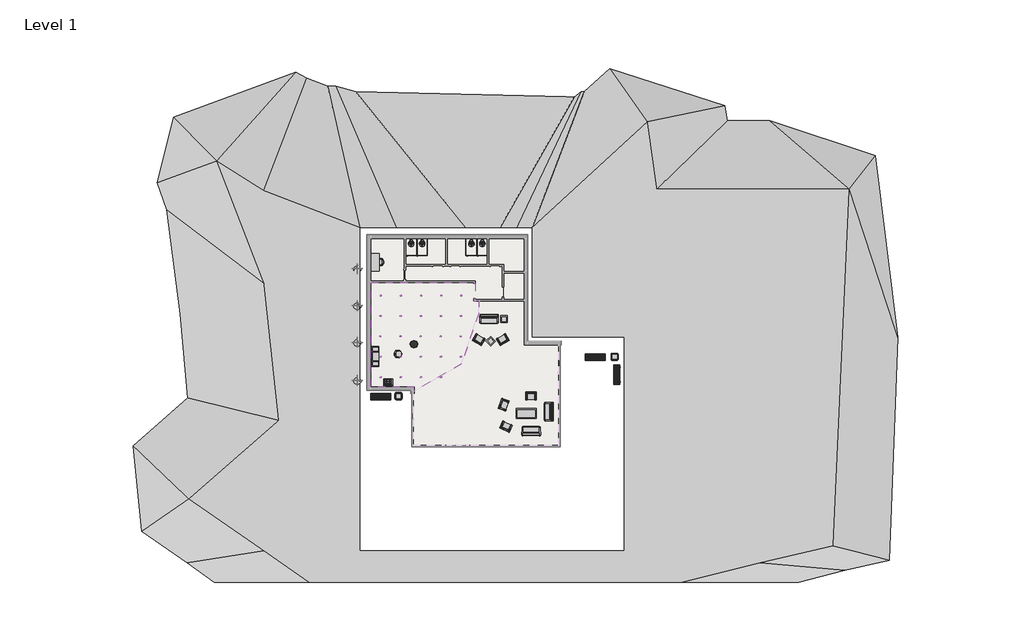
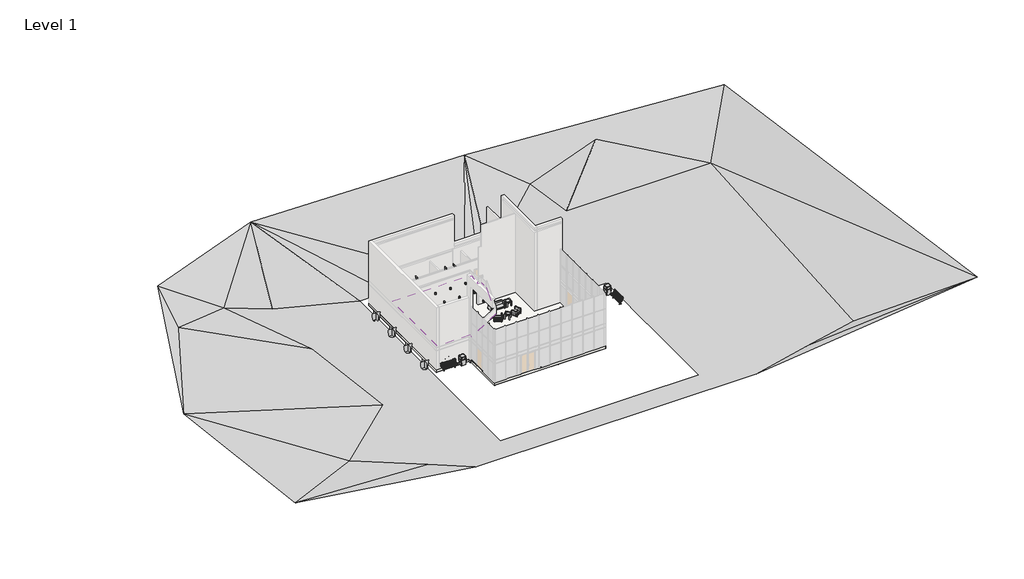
# One storey, part 6 of 6: 24 light fixtures, 16 furniture elements, 9 geographic elements, 4 flow terminals, 4 proxies, 2 slabs, 1 column, 1 covering.
"""IFC4 building model written with IfcOpenShell, lengths in millimetres."""

from ifc_helpers import new_model, si_unit, point, frame, frame_2d, origin, place, context, project, spatial, polyline, circle_curve, trimmed, segment, composite_curve, outline, extrude, triangles, transform, mapped, element, save
from components import toilet_partition_left_panel_86e2c154, toilet_partition_right_panel_75b5ee8c, m_metal_clad_column_610mm_diameter_6b82dced, m_toilet_commercial_wall_3d_380mm_seat_height_891fc42f, contemporary_seating_aus_armchair_88942494, contemporary_seating_aus_armchair_13fb45e9, m_chair_corbu_m_chair_corbu_62085674, m_chair_corbu_m_chair_corbu_af930865, m_chair_executive_m_chair_executive_8d69e98c, m_desk_1525_x_762mm_8f660baf, m_entertainment_center_1830_x_1830_x_0610mm_f77a9b93, m_sofa_pensi_1650mm_31461fb8, m_table_coffee_0610_x_0610_x_0610mm_65ce43c2, m_table_coffee_0915_x_1830_x_0457mm_134cd960, m_park_bench_1800mm_affd9039, m_trash_can_m_trash_can_952d1acd, rpc_shrub_boxwood_31a8b93a, m_downlight_recessed_can_152mm_incandescent_120v_9e946963

model = new_model("IFC4")

# Units and contexts
model_context = context("Model", 3, world=origin())
ifc_project = project(units=[si_unit("LENGTHUNIT", "METRE", prefix="MILLI")], contexts=[model_context])

# Site, building, storey
site = spatial("IfcSite", under=ifc_project)
building = spatial("IfcBuilding", under=site)
storey = spatial("IfcBuildingStorey", under=building, Name="Level 1", Elevation=45720.0)

# Proxies
placement = place(None, origin())
element("IfcBuildingElementProxy", 1, Name="Building Element Proxy", at=placement, inside=storey, context=model_context, shape_type="Tessellation", body=[
    triangles([(-41428.1642944, -20498.1557922, 48768.0), (-19551.4159058, -20498.1557922, 45720.0), (14417.4734619, -20498.1557922, 45720.0), (41237.1573486, -20498.1557922, 48768.0), (35819.3880432, 23255.3409851, 48768.0), (6851.5562073, 27630.6901978, 47244.0), (-18646.1711609, 28234.1859192, 47244.0), (-32979.2148926, 22953.5919617, 47244.0), (-43389.5282959, -582.771405, 48768.0), (-14938.2288849, -17638.8082306, 45732.6782959), (-14938.2288849, -17593.1110199, 45732.7015503), (-14938.2288849, -13234.14104, 45732.7015503), (-14938.2288849, -10756.0423004, 45744.6124512), (-14938.2288849, -3075.3747826, 45769.6388306), (-14938.2288849, -1483.2915836, 45774.8292114), (-14938.2288849, 2511.0714363, 45785.5262329), (-14938.2288849, 5032.5556091, 45788.5772095), (-14938.2288849, 11773.3104401, 45772.9549072), (-11600.6105164, 11773.3104401, 45770.8015503), (-5282.8159149, 11773.3104401, 45949.5301758), (-2147.8218063, 11773.3104401, 45955.4833008), (-634.5518927, 11773.3104401, 45775.6570679), (758.9712605, 11773.3104401, 45773.6106812), (758.9712605, 11061.46203, 45770.8015503), (758.9712605, 8665.1617859, 45754.8955444), (758.9712605, 5052.8747177, 45774.6059692), (758.9712605, 2919.9441536, 45780.5125854), (758.9712605, 1803.1890633, 45779.0754639), (3604.4020844, 1803.1890633, 45768.2528687), (9140.9711151, 1803.1890633, 45738.3849243), (9140.9711151, 1450.7640633, 45739.3616089), (9140.9711151, -369.7655477, 45744.4031616), (9140.9711151, -6338.6264694, 45736.7292114), (9140.9711151, -7307.9707901, 45732.7015503), (9140.9711151, -8053.5514435, 45732.7015503), (9140.9711151, -14295.842514, 45732.7015503), (9140.9711151, -17638.8082306, 45727.6692993), (1262.9813393, -17638.8082306, 45732.7015503), (-14928.8248077, -17638.8082306, 45732.7015503), (9968.4368866, 6832.0393753, 45720.0), (29567.6417358, 15272.2119873, 45796.2), (-23646.2380554, 6725.5726181, 45760.6393799), (-23646.2380554, 15127.1917694, 45770.8015503), (-27925.6977722, 17821.6645111, 45796.2), (11223.416098, 21387.8805542, 45796.2), (12079.5812805, 15272.2119873, 45770.8015503), (18355.8458588, 2130.3199677, 45745.3984497), (11857.4099579, -1435.8949127, 45732.7015503), (-22299.0016846, -5794.6015366, 45732.7015503), (-15800.5669464, -13402.5261108, 45732.7015503), (11619.6628418, -13244.0276459, 45732.7015503), (9955.429541, -7062.5892563, 45732.7015503), (21446.5653442, -18758.8352142, 45732.7015503), (28103.5008728, -17206.48927, 45732.7015503), (-30461.6708862, -12927.0318787, 45732.7015503), (-23646.2380554, -17638.8082306, 45732.7015503), (-34897.5373352, 15272.2119873, 47244.0), (20279.3528687, 23255.3409851, 47244.0)], [[1, 2, 56], [56, 2, 50], [1, 56, 55], [9, 55, 49], [55, 9, 1], [49, 50, 13], [49, 55, 56], [56, 50, 49], [42, 9, 49], [2, 11, 50], [39, 10, 2], [10, 11, 2], [12, 13, 50], [14, 15, 49], [13, 14, 49], [11, 12, 50], [2, 38, 39], [16, 49, 15], [43, 42, 18], [42, 43, 44], [18, 42, 17], [43, 18, 7], [57, 8, 9], [8, 57, 44], [44, 7, 8], [7, 44, 43], [57, 42, 44], [18, 19, 7], [42, 57, 9], [16, 17, 42], [26, 27, 29], [7, 20, 6], [20, 21, 6], [7, 19, 20], [42, 49, 16], [6, 21, 22], [37, 38, 3], [51, 35, 36], [48, 32, 33], [52, 33, 34], [35, 52, 34], [36, 37, 51], [3, 4, 53], [53, 4, 54], [3, 53, 51], [48, 52, 47], [51, 52, 35], [54, 47, 53], [51, 47, 52], [47, 51, 53], [52, 48, 33], [54, 4, 41], [3, 51, 37], [38, 2, 3], [32, 48, 31], [29, 40, 26], [25, 26, 40], [24, 25, 40], [23, 6, 22], [40, 23, 24], [45, 6, 23], [29, 30, 40], [29, 27, 28], [46, 23, 40], [30, 47, 40], [46, 47, 41], [47, 46, 40], [48, 47, 30], [46, 45, 23], [45, 58, 6], [45, 46, 58], [41, 5, 58], [5, 41, 4], [46, 41, 58], [58, 5, 6], [47, 54, 41], [31, 48, 30]], closed=False),
])
element("IfcBuildingElementProxy", 2, Name="Building Element Proxy", at=placement, inside=storey, context=model_context, shape_type="Tessellation", body=[
    triangles([(-14264.2316528, -3075.3747826, 45415.0418701), (-14264.2316528, -3075.3747826, 45772.2107666), (-12435.5397858, -3075.3747826, 45415.0418701), (-12435.5397858, -3075.3747826, 45779.187085), (-10301.8316528, -3075.3747826, 45415.0418701), (-10301.8316528, -3075.3747826, 45777.1825562), (-10301.8316528, -3321.4373795, 45415.0418701), (-10301.8316528, -3321.4373795, 45776.0012329), (-10189.1187653, -3321.4373795, 45415.0418701), (-10189.1187653, -3321.4373795, 45775.8942627), (-10189.1187653, -8172.8371857, 45415.0418701), (-10189.1187653, -8172.8371857, 45752.5747559), (-4408.8669342, -8172.8371857, 45415.0418701), (-4408.8669342, -8172.8371857, 45747.1471802), (-2489.5785622, -8172.8371857, 45415.0418701), (-2489.5785622, -8172.8371857, 45743.6683228), (3301.4563316, -8172.8371857, 45415.0418701), (3301.4563316, -8172.8371857, 45736.4176025), (3301.4563316, -1147.9467184, 45415.0418701), (3301.4563316, -1147.9467184, 45765.6111694), (3301.4563316, 1100.7639879, 45415.0418701), (3301.4563316, 1100.7639879, 45768.5040161), (3414.1686378, 1100.7639879, 45415.0418701), (3414.1686378, 1100.7639879, 45768.0714844), (3414.1686378, 1450.7640633, 45415.0418701), (3414.1686378, 1450.7640633, 45768.5226196)], [[1, 4, 2], [1, 3, 4], [3, 6, 4], [3, 5, 6], [5, 8, 6], [5, 7, 8], [7, 10, 8], [7, 9, 10], [9, 12, 10], [9, 11, 12], [11, 14, 12], [11, 13, 14], [13, 16, 14], [13, 15, 16], [15, 18, 16], [15, 17, 18], [17, 20, 18], [17, 19, 20], [19, 22, 20], [19, 21, 22], [21, 24, 22], [21, 23, 24], [23, 26, 24], [23, 25, 26]], closed=False),
    triangles([(377.9066568, 1450.7640633, 45415.0418701), (377.9066568, 1450.7640633, 45780.070752), (366.1687105, 1450.7640633, 45415.0418701), (366.1687105, 1450.7640633, 45780.0847046), (366.1687105, 1461.1977287, 45415.0418701), (366.1687105, 1461.1977287, 45780.1312134), (366.1687105, 3074.1085808, 45415.0418701), (366.1687105, 3074.1085808, 45782.2008545), (366.1687105, 4976.9898148, 45415.0418701), (366.1687105, 4976.9898148, 45776.9360596), (366.1687105, 8743.3482925, 45415.0418701), (366.1687105, 8743.3482925, 45756.3838257), (366.1687105, 10915.3581573, 45415.0418701), (366.1687105, 10915.3581573, 45770.8015503), (366.1687105, 11107.3499268, 45415.0418701), (366.1687105, 11107.3499268, 45771.5596436), (-1455.9032845, 11107.3499268, 45415.0418701), (-1455.9032845, 11107.3499268, 45774.2338989), (-2525.7676323, 11107.3499268, 45415.0418701), (-2525.7676323, 11107.3499268, 45901.3656738), (-4742.1724617, 11107.3499268, 45415.0418701), (-4742.1724617, 11107.3499268, 45897.1612793), (-9208.7803482, 11107.3499268, 45415.0418701), (-9208.7803482, 11107.3499268, 45770.8015503), (-14264.2316528, 11107.3499268, 45415.0418701), (-14264.2316528, 11107.3499268, 45774.0618164)], [[1, 4, 2], [1, 3, 4], [3, 6, 4], [3, 5, 6], [5, 8, 6], [5, 7, 8], [7, 10, 8], [7, 9, 10], [9, 12, 10], [9, 11, 12], [11, 14, 12], [11, 13, 14], [13, 16, 14], [13, 15, 16], [15, 18, 16], [15, 17, 18], [17, 20, 18], [17, 19, 20], [19, 22, 20], [19, 21, 22], [21, 24, 22], [21, 23, 24], [23, 26, 24], [23, 25, 26]], closed=False),
    triangles([(-14264.2316528, 11107.3499268, 45415.0418701), (-14264.2316528, 11107.3499268, 45774.0618164), (-14264.2316528, 4251.2335327, 45415.0418701), (-14264.2316528, 4251.2335327, 45789.9538696), (-14264.2316528, 2184.8701263, 45415.0418701), (-14264.2316528, 2184.8701263, 45787.4563477), (-14264.2316528, -1088.5216393, 45415.0418701), (-14264.2316528, -1088.5216393, 45778.68479), (-14264.2316528, -3075.3747826, 45415.0418701), (-14264.2316528, -3075.3747826, 45772.2107666)], [[1, 4, 2], [1, 3, 4], [3, 6, 4], [3, 5, 6], [5, 8, 6], [5, 7, 8], [7, 10, 8], [7, 9, 10]], closed=False),
    triangles([(-14264.2316528, 11107.3499268, 45415.0418701), (-14264.2316528, -3075.3747826, 45415.0418701), (-10301.8316528, -3075.3747826, 45415.0418701), (-10301.8316528, -3321.4373795, 45415.0418701), (-10189.1187653, -3321.4373795, 45415.0418701), (-10189.1187653, -8172.8371857, 45415.0418701), (3301.4563316, -8172.8371857, 45415.0418701), (3301.4563316, 1100.7639879, 45415.0418701), (3414.1686378, 1100.7639879, 45415.0418701), (3414.1686378, 1450.7640633, 45415.0418701), (366.1687105, 1450.7640633, 45415.0418701), (366.1687105, 11107.3499268, 45415.0418701)], [[5, 6, 7], [4, 5, 3], [1, 2, 3], [11, 1, 3], [3, 5, 11], [7, 8, 11], [8, 9, 10], [10, 11, 8], [11, 12, 1], [7, 11, 5]], closed=False),
])
toilet_partition_left_panel_shape = toilet_partition_left_panel_86e2c154(model_context)
element("IfcBuildingElementProxy", 3, Name="Toilet Partition : Left Panel", ObjectType="Toilet Partition : Left Panel", at=placement, inside=storey, context=model_context, shape_type="MappedRepresentation", body=[
    mapped(toilet_partition_left_panel_shape, transform((-4228.0563072, 9199.1751138, 45720.0), x_axis=(1.0, 0.0, 0.0), y_axis=(0.0, 1.0, 0.0), z_axis=(0.0, 0.0, 1.0))),
])
toilet_partition_right_panel_shape = toilet_partition_right_panel_75b5ee8c(model_context)
element("IfcBuildingElementProxy", 4, Name="Toilet Partition : Right Panel", ObjectType="Toilet Partition : Right Panel", at=placement, inside=storey, context=model_context, shape_type="MappedRepresentation", body=[
    mapped(toilet_partition_right_panel_shape, transform((-9689.0560279, 9199.1751138, 45720.0), x_axis=(1.0, 0.0, 0.0), y_axis=(0.0, 1.0, 0.0), z_axis=(0.0, 0.0, 1.0))),
])

# Column
m_metal_clad_column_610mm_diameter_shape = m_metal_clad_column_610mm_diameter_6b82dced(model_context)
element("IfcColumn", 5, ObjectType="M_Metal Clad Column : 610mm Diameter", at=placement, inside=storey, context=model_context, shape_type="MappedRepresentation", body=[
    mapped(m_metal_clad_column_610mm_diameter_shape, transform((-9997.0313072, 1149.0992317, 0.0), x_axis=(1.0, 0.0, 0.0), y_axis=(0.0, 1.0, 0.0), z_axis=(0.0, 0.0, 1.0))),
])

# Covering
element("IfcCovering", 6, ObjectType="Plain", at=placement, inside=storey, context=model_context, shape_type="SweptSolid", body=[
    extrude(outline(composite_curve([segment(polyline([(-13914.2313072, 6754.4001138), (-4531.8153553, 6754.4001138), (-4531.8153553, 6665.5251138), (-4404.7653553, 6665.5251138), (-4404.7653553, 5293.9251138), (-4531.8153553, 5293.9251138), (-4531.8153553, 5078.0001138), (-4111.4066434, 5078.0001138), (-4111.4066434, 3987.7203366)]), True, "CONTINUOUS"), segment(trimmed(circle_curve(frame_2d((-10970.1665049, 3705.9461435)), 6864.545399), [point((-4111.4066434, 3987.7203366))], [point((-9951.8313072, -3082.6455337))], False, "CARTESIAN"), True, "CONTINUOUS"), segment(polyline([(-9951.8313072, -3082.6455337), (-9951.8313072, -2725.3748862), (-13914.2313072, -2725.3748862), (-13914.2313072, 6635.1698262), (-13914.2313072, 6754.4001138)]), True, "CONTINUOUS")], self_intersect=False), holes=[composite_curve([segment(trimmed(circle_curve(frame_2d((-5706.0188072, 3714.1698262)), 75.0), [point((-5781.0188072, 3714.1698262))], [point((-5631.0188072, 3714.1698262))], True, "CARTESIAN"), True, "CONTINUOUS"), segment(trimmed(circle_curve(frame_2d((-5706.0188072, 3714.1698262)), 75.0), [point((-5631.0188072, 3714.1698262))], [point((-5781.0188072, 3714.1698262))], True, "CARTESIAN"), True, "CONTINUOUS")], self_intersect=False), composite_curve([segment(trimmed(circle_curve(frame_2d((-5706.0188072, 5573.3251138)), 75.0), [point((-5781.0188072, 5573.3251138))], [point((-5631.0188072, 5573.3251138))], True, "CARTESIAN"), True, "CONTINUOUS"), segment(trimmed(circle_curve(frame_2d((-5706.0188072, 5573.3251138)), 75.0), [point((-5631.0188072, 5573.3251138))], [point((-5781.0188072, 5573.3251138))], True, "CARTESIAN"), True, "CONTINUOUS")], self_intersect=False), composite_curve([segment(trimmed(circle_curve(frame_2d((-7534.8188072, 3714.1698262)), 75.0), [point((-7609.8188072, 3714.1698262))], [point((-7459.8188072, 3714.1698262))], True, "CARTESIAN"), True, "CONTINUOUS"), segment(trimmed(circle_curve(frame_2d((-7534.8188072, 3714.1698262)), 75.0), [point((-7459.8188072, 3714.1698262))], [point((-7609.8188072, 3714.1698262))], True, "CARTESIAN"), True, "CONTINUOUS")], self_intersect=False), composite_curve([segment(trimmed(circle_curve(frame_2d((-7534.8188072, 5573.3251138)), 75.0), [point((-7609.8188072, 5573.3251138))], [point((-7459.8188072, 5573.3251138))], True, "CARTESIAN"), True, "CONTINUOUS"), segment(trimmed(circle_curve(frame_2d((-7534.8188072, 5573.3251138)), 75.0), [point((-7459.8188072, 5573.3251138))], [point((-7609.8188072, 5573.3251138))], True, "CARTESIAN"), True, "CONTINUOUS")], self_intersect=False), composite_curve([segment(trimmed(circle_curve(frame_2d((-9363.6188072, 3714.1698262)), 75.0), [point((-9438.6188072, 3714.1698262))], [point((-9288.6188072, 3714.1698262))], True, "CARTESIAN"), True, "CONTINUOUS"), segment(trimmed(circle_curve(frame_2d((-9363.6188072, 3714.1698262)), 75.0), [point((-9288.6188072, 3714.1698262))], [point((-9438.6188072, 3714.1698262))], True, "CARTESIAN"), True, "CONTINUOUS")], self_intersect=False), composite_curve([segment(trimmed(circle_curve(frame_2d((-9363.6188072, 5573.3251138)), 75.0), [point((-9438.6188072, 5573.3251138))], [point((-9288.6188072, 5573.3251138))], True, "CARTESIAN"), True, "CONTINUOUS"), segment(trimmed(circle_curve(frame_2d((-9363.6188072, 5573.3251138)), 75.0), [point((-9288.6188072, 5573.3251138))], [point((-9438.6188072, 5573.3251138))], True, "CARTESIAN"), True, "CONTINUOUS")], self_intersect=False), composite_curve([segment(trimmed(circle_curve(frame_2d((-11192.4188072, 3714.1698262)), 75.0), [point((-11267.4188072, 3714.1698262))], [point((-11117.4188072, 3714.1698262))], True, "CARTESIAN"), True, "CONTINUOUS"), segment(trimmed(circle_curve(frame_2d((-11192.4188072, 3714.1698262)), 75.0), [point((-11117.4188072, 3714.1698262))], [point((-11267.4188072, 3714.1698262))], True, "CARTESIAN"), True, "CONTINUOUS")], self_intersect=False), composite_curve([segment(trimmed(circle_curve(frame_2d((-11192.4188072, 5573.3251138)), 75.0), [point((-11267.4188072, 5573.3251138))], [point((-11117.4188072, 5573.3251138))], True, "CARTESIAN"), True, "CONTINUOUS"), segment(trimmed(circle_curve(frame_2d((-11192.4188072, 5573.3251138)), 75.0), [point((-11117.4188072, 5573.3251138))], [point((-11267.4188072, 5573.3251138))], True, "CARTESIAN"), True, "CONTINUOUS")], self_intersect=False), composite_curve([segment(trimmed(circle_curve(frame_2d((-13021.2188072, 3714.1698262)), 75.0), [point((-13096.2188072, 3714.1698262))], [point((-12946.2188072, 3714.1698262))], True, "CARTESIAN"), True, "CONTINUOUS"), segment(trimmed(circle_curve(frame_2d((-13021.2188072, 3714.1698262)), 75.0), [point((-12946.2188072, 3714.1698262))], [point((-13096.2188072, 3714.1698262))], True, "CARTESIAN"), True, "CONTINUOUS")], self_intersect=False), composite_curve([segment(trimmed(circle_curve(frame_2d((-13021.2188072, 5573.3251138)), 75.0), [point((-13096.2188072, 5573.3251138))], [point((-12946.2188072, 5573.3251138))], True, "CARTESIAN"), True, "CONTINUOUS"), segment(trimmed(circle_curve(frame_2d((-13021.2188072, 5573.3251138)), 75.0), [point((-12946.2188072, 5573.3251138))], [point((-13096.2188072, 5573.3251138))], True, "CARTESIAN"), True, "CONTINUOUS")], self_intersect=False), composite_curve([segment(trimmed(circle_curve(frame_2d((-5706.0188072, 1859.9698262)), 75.0), [point((-5781.0188072, 1859.9698262))], [point((-5631.0188072, 1859.9698262))], True, "CARTESIAN"), True, "CONTINUOUS"), segment(trimmed(circle_curve(frame_2d((-5706.0188072, 1859.9698262)), 75.0), [point((-5631.0188072, 1859.9698262))], [point((-5781.0188072, 1859.9698262))], True, "CARTESIAN"), True, "CONTINUOUS")], self_intersect=False), composite_curve([segment(trimmed(circle_curve(frame_2d((-7534.8188072, 1859.9698262)), 75.0), [point((-7609.8188072, 1859.9698262))], [point((-7459.8188072, 1859.9698262))], True, "CARTESIAN"), True, "CONTINUOUS"), segment(trimmed(circle_curve(frame_2d((-7534.8188072, 1859.9698262)), 75.0), [point((-7459.8188072, 1859.9698262))], [point((-7609.8188072, 1859.9698262))], True, "CARTESIAN"), True, "CONTINUOUS")], self_intersect=False), composite_curve([segment(trimmed(circle_curve(frame_2d((-9363.6188072, 1859.9698262)), 75.0), [point((-9438.6188072, 1859.9698262))], [point((-9288.6188072, 1859.9698262))], True, "CARTESIAN"), True, "CONTINUOUS"), segment(trimmed(circle_curve(frame_2d((-9363.6188072, 1859.9698262)), 75.0), [point((-9288.6188072, 1859.9698262))], [point((-9438.6188072, 1859.9698262))], True, "CARTESIAN"), True, "CONTINUOUS")], self_intersect=False), composite_curve([segment(trimmed(circle_curve(frame_2d((-11192.4188072, 1859.9698262)), 75.0), [point((-11267.4188072, 1859.9698262))], [point((-11117.4188072, 1859.9698262))], True, "CARTESIAN"), True, "CONTINUOUS"), segment(trimmed(circle_curve(frame_2d((-11192.4188072, 1859.9698262)), 75.0), [point((-11117.4188072, 1859.9698262))], [point((-11267.4188072, 1859.9698262))], True, "CARTESIAN"), True, "CONTINUOUS")], self_intersect=False), composite_curve([segment(trimmed(circle_curve(frame_2d((-13021.2188072, 1859.9698262)), 75.0), [point((-13096.2188072, 1859.9698262))], [point((-12946.2188072, 1859.9698262))], True, "CARTESIAN"), True, "CONTINUOUS"), segment(trimmed(circle_curve(frame_2d((-13021.2188072, 1859.9698262)), 75.0), [point((-12946.2188072, 1859.9698262))], [point((-13096.2188072, 1859.9698262))], True, "CARTESIAN"), True, "CONTINUOUS")], self_intersect=False), composite_curve([segment(trimmed(circle_curve(frame_2d((-7534.8188072, 5.7698262)), 75.0), [point((-7609.8188072, 5.7698262))], [point((-7459.8188072, 5.7698262))], True, "CARTESIAN"), True, "CONTINUOUS"), segment(trimmed(circle_curve(frame_2d((-7534.8188072, 5.7698262)), 75.0), [point((-7459.8188072, 5.7698262))], [point((-7609.8188072, 5.7698262))], True, "CARTESIAN"), True, "CONTINUOUS")], self_intersect=False), composite_curve([segment(trimmed(circle_curve(frame_2d((-9363.6188072, 5.7698262)), 75.0), [point((-9438.6188072, 5.7698262))], [point((-9288.6188072, 5.7698262))], True, "CARTESIAN"), True, "CONTINUOUS"), segment(trimmed(circle_curve(frame_2d((-9363.6188072, 5.7698262)), 75.0), [point((-9288.6188072, 5.7698262))], [point((-9438.6188072, 5.7698262))], True, "CARTESIAN"), True, "CONTINUOUS")], self_intersect=False), composite_curve([segment(trimmed(circle_curve(frame_2d((-11192.4188072, 5.7698262)), 75.0), [point((-11267.4188072, 5.7698262))], [point((-11117.4188072, 5.7698262))], True, "CARTESIAN"), True, "CONTINUOUS"), segment(trimmed(circle_curve(frame_2d((-11192.4188072, 5.7698262)), 75.0), [point((-11117.4188072, 5.7698262))], [point((-11267.4188072, 5.7698262))], True, "CARTESIAN"), True, "CONTINUOUS")], self_intersect=False), composite_curve([segment(trimmed(circle_curve(frame_2d((-13021.2188072, 5.7698262)), 75.0), [point((-13096.2188072, 5.7698262))], [point((-12946.2188072, 5.7698262))], True, "CARTESIAN"), True, "CONTINUOUS"), segment(trimmed(circle_curve(frame_2d((-13021.2188072, 5.7698262)), 75.0), [point((-12946.2188072, 5.7698262))], [point((-13096.2188072, 5.7698262))], True, "CARTESIAN"), True, "CONTINUOUS")], self_intersect=False), composite_curve([segment(trimmed(circle_curve(frame_2d((-7534.8188072, -1848.4301738)), 75.0), [point((-7609.8188072, -1848.4301738))], [point((-7459.8188072, -1848.4301738))], True, "CARTESIAN"), True, "CONTINUOUS"), segment(trimmed(circle_curve(frame_2d((-7534.8188072, -1848.4301738)), 75.0), [point((-7459.8188072, -1848.4301738))], [point((-7609.8188072, -1848.4301738))], True, "CARTESIAN"), True, "CONTINUOUS")], self_intersect=False), composite_curve([segment(trimmed(circle_curve(frame_2d((-9363.6188072, -1848.4301738)), 75.0), [point((-9438.6188072, -1848.4301738))], [point((-9288.6188072, -1848.4301738))], True, "CARTESIAN"), True, "CONTINUOUS"), segment(trimmed(circle_curve(frame_2d((-9363.6188072, -1848.4301738)), 75.0), [point((-9288.6188072, -1848.4301738))], [point((-9438.6188072, -1848.4301738))], True, "CARTESIAN"), True, "CONTINUOUS")], self_intersect=False), composite_curve([segment(trimmed(circle_curve(frame_2d((-11192.4188072, -1848.4301738)), 75.0), [point((-11267.4188072, -1848.4301738))], [point((-11117.4188072, -1848.4301738))], True, "CARTESIAN"), True, "CONTINUOUS"), segment(trimmed(circle_curve(frame_2d((-11192.4188072, -1848.4301738)), 75.0), [point((-11117.4188072, -1848.4301738))], [point((-11267.4188072, -1848.4301738))], True, "CARTESIAN"), True, "CONTINUOUS")], self_intersect=False), composite_curve([segment(trimmed(circle_curve(frame_2d((-13021.2188072, -1848.4301738)), 75.0), [point((-13096.2188072, -1848.4301738))], [point((-12946.2188072, -1848.4301738))], True, "CARTESIAN"), True, "CONTINUOUS"), segment(trimmed(circle_curve(frame_2d((-13021.2188072, -1848.4301738)), 75.0), [point((-12946.2188072, -1848.4301738))], [point((-13096.2188072, -1848.4301738))], True, "CARTESIAN"), True, "CONTINUOUS")], self_intersect=False), composite_curve([segment(trimmed(circle_curve(frame_2d((-5706.0188072, 5.7698262)), 75.0), [point((-5781.0188072, 5.7698262))], [point((-5631.0188072, 5.7698262))], True, "CARTESIAN"), True, "CONTINUOUS"), segment(trimmed(circle_curve(frame_2d((-5706.0188072, 5.7698262)), 75.0), [point((-5631.0188072, 5.7698262))], [point((-5781.0188072, 5.7698262))], True, "CARTESIAN"), True, "CONTINUOUS")], self_intersect=False)]), frame((0.0, 0.0, 48463.2), z_axis=(0.0, 0.0, 1.0), x_axis=(1.0, 0.0, 0.0)), (0.0, 0.0, 1.0), 57.0),
])

# Flow terminals
m_toilet_commercial_wall_3d_380mm_seat_height_shape = m_toilet_commercial_wall_3d_380mm_seat_height_891fc42f(model_context)
element("IfcFlowTerminal", 7, ObjectType="M_Toilet-Commercial-Wall-3D : 380mm Seat Height", at=placement, inside=storey, context=model_context, shape_type="MappedRepresentation", body=[
    mapped(m_toilet_commercial_wall_3d_380mm_seat_height_shape, transform((-4362.9031534, 10932.3501138, 45720.0), x_axis=(-1.0, 0.0, 0.0), y_axis=(0.0, -1.0, 0.0), z_axis=(0.0, 0.0, 1.0))),
])
element("IfcFlowTerminal", 8, ObjectType="M_Toilet-Commercial-Wall-3D : 380mm Seat Height", at=placement, inside=storey, context=model_context, shape_type="MappedRepresentation", body=[
    mapped(m_toilet_commercial_wall_3d_380mm_seat_height_shape, transform((-3365.9531534, 10932.3501138, 45720.0), x_axis=(-1.0, 0.0, 0.0), y_axis=(0.0, -1.0, 0.0), z_axis=(0.0, 0.0, 1.0))),
])
element("IfcFlowTerminal", 9, ObjectType="M_Toilet-Commercial-Wall-3D : 380mm Seat Height", at=placement, inside=storey, context=model_context, shape_type="MappedRepresentation", body=[
    mapped(m_toilet_commercial_wall_3d_380mm_seat_height_shape, transform((-9836.6028741, 10932.3501138, 45720.0), x_axis=(-1.0, 0.0, 0.0), y_axis=(0.0, -1.0, 0.0), z_axis=(0.0, 0.0, 1.0))),
])
element("IfcFlowTerminal", 10, ObjectType="M_Toilet-Commercial-Wall-3D : 380mm Seat Height", at=placement, inside=storey, context=model_context, shape_type="MappedRepresentation", body=[
    mapped(m_toilet_commercial_wall_3d_380mm_seat_height_shape, transform((-8839.6528741, 10932.3501138, 45720.0), x_axis=(-1.0, 0.0, 0.0), y_axis=(0.0, -1.0, 0.0), z_axis=(0.0, 0.0, 1.0))),
])

# Furniture
contemporary_seating_aus_armchair_shape = contemporary_seating_aus_armchair_88942494(model_context)
contemporary_seating_aus_armchair_2_shape = contemporary_seating_aus_armchair_13fb45e9(model_context)
element("IfcFurniture", 11, ObjectType="Contemporary Seating (AUS) : Armchair", at=placement, inside=storey, context=model_context, shape_type="MappedRepresentation", body=[
    mapped(contemporary_seating_aus_armchair_shape, transform((-12192.8501139, -2625.3748862, 45720.0), x_axis=(-1.0, 0.0, 0.0), y_axis=(0.0, -1.0, 0.0), z_axis=(0.0, 0.0, 1.0))),
    mapped(contemporary_seating_aus_armchair_2_shape, transform((-12192.8501139, -2625.3748862, 45720.0), x_axis=(-1.0, 0.0, 0.0), y_axis=(0.0, -1.0, 0.0), z_axis=(0.0, 0.0, 1.0))),
])
m_chair_corbu_m_chair_corbu_shape = m_chair_corbu_m_chair_corbu_62085674(model_context)
element("IfcFurniture", 12, ObjectType="M_Chair-Corbu : M_Chair-Corbu", at=placement, inside=storey, context=model_context, shape_type="MappedRepresentation", body=[
    mapped(m_chair_corbu_m_chair_corbu_shape, transform((-3364.9045663, 1687.1656632, 45720.0), x_axis=(-0.8660254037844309, 0.5000000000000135, 0.0), y_axis=(-0.5000000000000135, -0.8660254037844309, 0.0), z_axis=(0.0, 0.0, 1.0))),
])
element("IfcFurniture", 13, ObjectType="M_Chair-Corbu : M_Chair-Corbu", at=placement, inside=storey, context=model_context, shape_type="MappedRepresentation", body=[
    mapped(m_chair_corbu_m_chair_corbu_shape, transform((-1575.5129686, -5056.2676777, 45720.0), x_axis=(0.3255681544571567, 0.9455185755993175, 0.0), y_axis=(-0.9455185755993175, 0.3255681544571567, 0.0), z_axis=(0.0, 0.0, 1.0))),
])
element("IfcFurniture", 14, ObjectType="M_Chair-Corbu : M_Chair-Corbu", at=placement, inside=storey, context=model_context, shape_type="MappedRepresentation", body=[
    mapped(m_chair_corbu_m_chair_corbu_shape, transform((-900.9288538, -6150.1458279, 45720.0), x_axis=(-0.9135454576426, 0.40673664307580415, 0.0), y_axis=(-0.40673664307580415, -0.9135454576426, 0.0), z_axis=(0.0, 0.0, 1.0))),
])
element("IfcFurniture", 15, ObjectType="M_Chair-Corbu : M_Chair-Corbu", at=placement, inside=storey, context=model_context, shape_type="MappedRepresentation", body=[
    mapped(m_chair_corbu_m_chair_corbu_shape, transform((73.7824223, -4018.2255465, 45720.0), x_axis=(1.0, 0.0, 0.0), y_axis=(0.0, 1.0, 0.0), z_axis=(0.0, 0.0, 1.0))),
])
m_chair_corbu_m_chair_corbu_2_shape = m_chair_corbu_m_chair_corbu_af930865(model_context)
element("IfcFurniture", 16, ObjectType="M_Chair-Corbu : M_Chair-Corbu", at=placement, inside=storey, context=model_context, shape_type="MappedRepresentation", body=[
    mapped(m_chair_corbu_m_chair_corbu_2_shape, transform((-2645.916353, 1687.1656632, 45720.0), x_axis=(0.8660254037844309, 0.5000000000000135, 0.0), y_axis=(-0.5000000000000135, 0.8660254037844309, 0.0), z_axis=(0.0, 0.0, 1.0))),
])
m_chair_executive_m_chair_executive_shape = m_chair_executive_m_chair_executive_8d69e98c(model_context)
element("IfcFurniture", 17, ObjectType="M_Chair-Executive : M_Chair-Executive", at=placement, inside=storey, context=model_context, shape_type="MappedRepresentation", body=[
    mapped(m_chair_executive_m_chair_executive_shape, transform((-13092.7604056, 8480.3342941, 45720.0), x_axis=(0.0, 1.0, 0.0), y_axis=(-1.0, 0.0, 0.0), z_axis=(0.0, 0.0, 1.0))),
])
element("IfcFurniture", 18, ObjectType="M_Chair-Executive : M_Chair-Executive", at=placement, inside=storey, context=model_context, shape_type="MappedRepresentation", body=[
    mapped(m_chair_executive_m_chair_executive_shape, transform((-11433.1772089, 390.0900513, 45720.0), x_axis=(0.0, -1.0, 0.0), y_axis=(1.0, 0.0, 0.0), z_axis=(0.0, 0.0, 1.0))),
])
m_desk_1525_x_762mm_shape = m_desk_1525_x_762mm_8f660baf(model_context)
element("IfcFurniture", 19, ObjectType="M_Desk : 1525 x 762mm", at=placement, inside=storey, context=model_context, shape_type="MappedRepresentation", body=[
    mapped(m_desk_1525_x_762mm_shape, transform((-13911.8063072, 9363.7751138, 45720.0), x_axis=(0.0, -1.0, 0.0), y_axis=(1.0, 0.0, 0.0), z_axis=(0.0, 0.0, 1.0))),
])
m_entertainment_center_1830_x_1830_x_0610mm_shape = m_entertainment_center_1830_x_1830_x_0610mm_f77a9b93(model_context)
element("IfcFurniture", 20, ObjectType="M_Entertainment center : 1830 x 1830 x 0610mm", at=placement, inside=storey, context=model_context, shape_type="MappedRepresentation", body=[
    mapped(m_entertainment_center_1830_x_1830_x_0610mm_shape, transform((-13915.6313072, 34.0992317, 45720.0), x_axis=(0.0, 1.0, 0.0), y_axis=(-1.0, 0.0, 0.0), z_axis=(0.0, 0.0, 1.0))),
])
m_sofa_pensi_1650mm_shape = m_sofa_pensi_1650mm_31461fb8(model_context)
element("IfcFurniture", 21, ObjectType="M_Sofa-Pensi : 1650mm", at=placement, inside=storey, context=model_context, shape_type="MappedRepresentation", body=[
    mapped(m_sofa_pensi_1650mm_shape, transform((951.1624428, -6486.0275502, 45720.0), x_axis=(-1.0, 0.0, 0.0), y_axis=(0.0, -1.0, 0.0), z_axis=(0.0, 0.0, 1.0))),
])
element("IfcFurniture", 22, ObjectType="M_Sofa-Pensi : 1650mm", at=placement, inside=storey, context=model_context, shape_type="MappedRepresentation", body=[
    mapped(m_sofa_pensi_1650mm_shape, transform((1995.6463567, -4706.5311362, 45720.0), x_axis=(0.0, -1.0, 0.0), y_axis=(1.0, 0.0, 0.0), z_axis=(0.0, 0.0, 1.0))),
])
element("IfcFurniture", 23, ObjectType="M_Sofa-Pensi : 1650mm", at=placement, inside=storey, context=model_context, shape_type="MappedRepresentation", body=[
    mapped(m_sofa_pensi_1650mm_shape, transform((-3441.4500572, 3162.6152777, 45720.0), x_axis=(1.0, 0.0, 0.0), y_axis=(0.0, 1.0, 0.0), z_axis=(0.0, 0.0, 1.0))),
])
m_table_coffee_0610_x_0610_x_0610mm_shape = m_table_coffee_0610_x_0610_x_0610mm_65ce43c2(model_context)
element("IfcFurniture", 24, ObjectType="M_Table-Coffee : 0610 x 0610 x 0610mm", at=placement, inside=storey, context=model_context, shape_type="MappedRepresentation", body=[
    mapped(m_table_coffee_0610_x_0610_x_0610mm_shape, transform((-3093.6475113, 1365.3306076, 45720.0), x_axis=(0.6953467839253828, -0.7186743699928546, 0.0), y_axis=(0.7186743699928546, 0.6953467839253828, 0.0), z_axis=(0.0, 0.0, 1.0))),
])
element("IfcFurniture", 25, ObjectType="M_Table-Coffee : 0610 x 0610 x 0610mm", at=placement, inside=storey, context=model_context, shape_type="MappedRepresentation", body=[
    mapped(m_table_coffee_0610_x_0610_x_0610mm_shape, transform((-1833.3220739, 3344.514036, 45720.0), x_axis=(1.0, 0.0, 0.0), y_axis=(0.0, 1.0, 0.0), z_axis=(0.0, 0.0, 1.0))),
])
m_table_coffee_0915_x_1830_x_0457mm_shape = m_table_coffee_0915_x_1830_x_0457mm_134cd960(model_context)
element("IfcFurniture", 26, ObjectType="M_Table-Coffee : 0915 x 1830 x 0457mm", at=placement, inside=storey, context=model_context, shape_type="MappedRepresentation", body=[
    mapped(m_table_coffee_0915_x_1830_x_0457mm_shape, transform((233.6219595, -5067.748357, 45720.0), x_axis=(-1.0, 0.0, 0.0), y_axis=(0.0, -1.0, 0.0), z_axis=(0.0, 0.0, 1.0))),
])

# Geographic elements
m_park_bench_1800mm_shape = m_park_bench_1800mm_affd9039(model_context)
element("IfcGeographicElement", 27, ObjectType="M_Park Bench : 1800mm", at=placement, inside=storey, context=model_context, shape_type="MappedRepresentation", body=[
    mapped(m_park_bench_1800mm_shape, transform((6493.0212343, 0.41068, 45754.9490804), x_axis=(1.0, 0.0, 0.0), y_axis=(0.0, 1.0, 0.0), z_axis=(0.0, 0.0, 1.0))),
])
element("IfcGeographicElement", 28, ObjectType="M_Park Bench : 1800mm", at=placement, inside=storey, context=model_context, shape_type="MappedRepresentation", body=[
    mapped(m_park_bench_1800mm_shape, transform((8474.2212343, -1618.83932, 45745.3321721), x_axis=(0.0, -1.0, 0.0), y_axis=(1.0, 0.0, 0.0), z_axis=(0.0, 0.0, 1.0))),
])
element("IfcGeographicElement", 29, ObjectType="M_Park Bench : 1800mm", at=placement, inside=storey, context=model_context, shape_type="MappedRepresentation", body=[
    mapped(m_park_bench_1800mm_shape, transform((-13014.1787657, -3600.03932, 45773.3590698), x_axis=(1.0, 0.0, 0.0), y_axis=(0.0, 1.0, 0.0), z_axis=(0.0, 0.0, 1.0))),
])
m_trash_can_m_trash_can_shape = m_trash_can_m_trash_can_952d1acd(model_context)
element("IfcGeographicElement", 30, ObjectType="M_Trash Can : M_Trash Can", at=placement, inside=storey, context=model_context, shape_type="MappedRepresentation", body=[
    mapped(m_trash_can_m_trash_can_shape, transform((-11388.2552278, -3573.4289276, 45775.8103844), x_axis=(0.9999995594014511, 0.0, -0.0009387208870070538), y_axis=(4.512744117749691e-06, 0.9999884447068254, 0.004807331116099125), z_axis=(0.0009387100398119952, -0.004807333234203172, 0.9999880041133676))),
])
element("IfcGeographicElement", 31, ObjectType="M_Trash Can : M_Trash Can", at=placement, inside=storey, context=model_context, shape_type="MappedRepresentation", body=[
    mapped(m_trash_can_m_trash_can_shape, transform((8255.2185031, 0.41068, 45748.1554803), x_axis=(0.9999854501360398, 0.0, -0.005394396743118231), y_axis=(-1.4934271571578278e-05, 0.9999961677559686, -0.0027684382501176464), z_axis=(0.0053943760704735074, 0.0027684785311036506, 0.9999816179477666))),
])
rpc_shrub_boxwood_shape = rpc_shrub_boxwood_31a8b93a(model_context)
element("IfcGeographicElement", 32, ObjectType="RPC Shrub : Boxwood", at=placement, inside=storey, context=model_context, shape_type="MappedRepresentation", body=[
    mapped(rpc_shrub_boxwood_shape, transform((-15141.4287657, 4657.1474155, 45787.4233242), x_axis=(1.0, 0.0, 0.0), y_axis=(0.0, 1.0, 0.0), z_axis=(0.0, 0.0, 1.0))),
])
element("IfcGeographicElement", 33, ObjectType="RPC Shrub : Boxwood", at=placement, inside=storey, context=model_context, shape_type="MappedRepresentation", body=[
    mapped(rpc_shrub_boxwood_shape, transform((-15141.4287657, 1325.929945, 45781.5090272), x_axis=(1.0, 0.0, 0.0), y_axis=(0.0, 1.0, 0.0), z_axis=(0.0, 0.0, 1.0))),
])
element("IfcGeographicElement", 34, ObjectType="RPC Shrub : Boxwood", at=placement, inside=storey, context=model_context, shape_type="MappedRepresentation", body=[
    mapped(rpc_shrub_boxwood_shape, transform((-15141.4287657, -2143.7025845, 45771.901212), x_axis=(1.0, 0.0, 0.0), y_axis=(0.0, 1.0, 0.0), z_axis=(0.0, 0.0, 1.0))),
])
element("IfcGeographicElement", 35, ObjectType="RPC Shrub : Boxwood", at=placement, inside=storey, context=model_context, shape_type="MappedRepresentation", body=[
    mapped(rpc_shrub_boxwood_shape, transform((-15141.4287657, 8016.2974155, 45781.101183), x_axis=(1.0, 0.0, 0.0), y_axis=(0.0, 1.0, 0.0), z_axis=(0.0, 0.0, 1.0))),
])

# Light fixtures
m_downlight_recessed_can_152mm_incandescent_120v_shape = m_downlight_recessed_can_152mm_incandescent_120v_9e946963(model_context)
element("IfcLightFixture", 36, ObjectType="M_Downlight - Recessed Can : 152mm Incandescent - 120V", at=placement, inside=storey, context=model_context, shape_type="MappedRepresentation", body=[
    mapped(m_downlight_recessed_can_152mm_incandescent_120v_shape, transform((-13021.2188072, 5573.3251138, 46024.8), x_axis=(1.0, 0.0, 0.0), y_axis=(0.0, 1.0, 0.0), z_axis=(0.0, 0.0, 1.0))),
])
element("IfcLightFixture", 37, ObjectType="M_Downlight - Recessed Can : 152mm Incandescent - 120V", at=placement, inside=storey, context=model_context, shape_type="MappedRepresentation", body=[
    mapped(m_downlight_recessed_can_152mm_incandescent_120v_shape, transform((-13021.2188072, 3714.1698262, 46024.8), x_axis=(1.0, 0.0, 0.0), y_axis=(0.0, 1.0, 0.0), z_axis=(0.0, 0.0, 1.0))),
])
element("IfcLightFixture", 38, ObjectType="M_Downlight - Recessed Can : 152mm Incandescent - 120V", at=placement, inside=storey, context=model_context, shape_type="MappedRepresentation", body=[
    mapped(m_downlight_recessed_can_152mm_incandescent_120v_shape, transform((-11192.4188072, 5573.3251138, 46024.8), x_axis=(1.0, 0.0, 0.0), y_axis=(0.0, 1.0, 0.0), z_axis=(0.0, 0.0, 1.0))),
])
element("IfcLightFixture", 39, ObjectType="M_Downlight - Recessed Can : 152mm Incandescent - 120V", at=placement, inside=storey, context=model_context, shape_type="MappedRepresentation", body=[
    mapped(m_downlight_recessed_can_152mm_incandescent_120v_shape, transform((-11192.4188072, 3714.1698262, 46024.8), x_axis=(1.0, 0.0, 0.0), y_axis=(0.0, 1.0, 0.0), z_axis=(0.0, 0.0, 1.0))),
])
element("IfcLightFixture", 40, ObjectType="M_Downlight - Recessed Can : 152mm Incandescent - 120V", at=placement, inside=storey, context=model_context, shape_type="MappedRepresentation", body=[
    mapped(m_downlight_recessed_can_152mm_incandescent_120v_shape, transform((-9363.6188072, 5573.3251138, 46024.8), x_axis=(1.0, 0.0, 0.0), y_axis=(0.0, 1.0, 0.0), z_axis=(0.0, 0.0, 1.0))),
])
element("IfcLightFixture", 41, ObjectType="M_Downlight - Recessed Can : 152mm Incandescent - 120V", at=placement, inside=storey, context=model_context, shape_type="MappedRepresentation", body=[
    mapped(m_downlight_recessed_can_152mm_incandescent_120v_shape, transform((-9363.6188072, 3714.1698262, 46024.8), x_axis=(1.0, 0.0, 0.0), y_axis=(0.0, 1.0, 0.0), z_axis=(0.0, 0.0, 1.0))),
])
element("IfcLightFixture", 42, ObjectType="M_Downlight - Recessed Can : 152mm Incandescent - 120V", at=placement, inside=storey, context=model_context, shape_type="MappedRepresentation", body=[
    mapped(m_downlight_recessed_can_152mm_incandescent_120v_shape, transform((-7534.8188072, 5573.3251138, 46024.8), x_axis=(1.0, 0.0, 0.0), y_axis=(0.0, 1.0, 0.0), z_axis=(0.0, 0.0, 1.0))),
])
element("IfcLightFixture", 43, ObjectType="M_Downlight - Recessed Can : 152mm Incandescent - 120V", at=placement, inside=storey, context=model_context, shape_type="MappedRepresentation", body=[
    mapped(m_downlight_recessed_can_152mm_incandescent_120v_shape, transform((-7534.8188072, 3714.1698262, 46024.8), x_axis=(1.0, 0.0, 0.0), y_axis=(0.0, 1.0, 0.0), z_axis=(0.0, 0.0, 1.0))),
])
element("IfcLightFixture", 44, ObjectType="M_Downlight - Recessed Can : 152mm Incandescent - 120V", at=placement, inside=storey, context=model_context, shape_type="MappedRepresentation", body=[
    mapped(m_downlight_recessed_can_152mm_incandescent_120v_shape, transform((-5706.0188072, 5573.3251138, 46024.8), x_axis=(1.0, 0.0, 0.0), y_axis=(0.0, 1.0, 0.0), z_axis=(0.0, 0.0, 1.0))),
])
element("IfcLightFixture", 45, ObjectType="M_Downlight - Recessed Can : 152mm Incandescent - 120V", at=placement, inside=storey, context=model_context, shape_type="MappedRepresentation", body=[
    mapped(m_downlight_recessed_can_152mm_incandescent_120v_shape, transform((-5706.0188072, 3714.1698262, 46024.8), x_axis=(1.0, 0.0, 0.0), y_axis=(0.0, 1.0, 0.0), z_axis=(0.0, 0.0, 1.0))),
])
element("IfcLightFixture", 46, ObjectType="M_Downlight - Recessed Can : 152mm Incandescent - 120V", at=placement, inside=storey, context=model_context, shape_type="MappedRepresentation", body=[
    mapped(m_downlight_recessed_can_152mm_incandescent_120v_shape, transform((-13021.2188072, 1859.9698262, 46024.8), x_axis=(1.0, 0.0, 0.0), y_axis=(0.0, 1.0, 0.0), z_axis=(0.0, 0.0, 1.0))),
])
element("IfcLightFixture", 47, ObjectType="M_Downlight - Recessed Can : 152mm Incandescent - 120V", at=placement, inside=storey, context=model_context, shape_type="MappedRepresentation", body=[
    mapped(m_downlight_recessed_can_152mm_incandescent_120v_shape, transform((-11192.4188072, 1859.9698262, 46024.8), x_axis=(1.0, 0.0, 0.0), y_axis=(0.0, 1.0, 0.0), z_axis=(0.0, 0.0, 1.0))),
])
element("IfcLightFixture", 48, ObjectType="M_Downlight - Recessed Can : 152mm Incandescent - 120V", at=placement, inside=storey, context=model_context, shape_type="MappedRepresentation", body=[
    mapped(m_downlight_recessed_can_152mm_incandescent_120v_shape, transform((-9363.6188072, 1859.9698262, 46024.8), x_axis=(1.0, 0.0, 0.0), y_axis=(0.0, 1.0, 0.0), z_axis=(0.0, 0.0, 1.0))),
])
element("IfcLightFixture", 49, ObjectType="M_Downlight - Recessed Can : 152mm Incandescent - 120V", at=placement, inside=storey, context=model_context, shape_type="MappedRepresentation", body=[
    mapped(m_downlight_recessed_can_152mm_incandescent_120v_shape, transform((-7534.8188072, 1859.9698262, 46024.8), x_axis=(1.0, 0.0, 0.0), y_axis=(0.0, 1.0, 0.0), z_axis=(0.0, 0.0, 1.0))),
])
element("IfcLightFixture", 50, ObjectType="M_Downlight - Recessed Can : 152mm Incandescent - 120V", at=placement, inside=storey, context=model_context, shape_type="MappedRepresentation", body=[
    mapped(m_downlight_recessed_can_152mm_incandescent_120v_shape, transform((-5706.0188072, 1859.9698262, 46024.8), x_axis=(1.0, 0.0, 0.0), y_axis=(0.0, 1.0, 0.0), z_axis=(0.0, 0.0, 1.0))),
])
element("IfcLightFixture", 51, ObjectType="M_Downlight - Recessed Can : 152mm Incandescent - 120V", at=placement, inside=storey, context=model_context, shape_type="MappedRepresentation", body=[
    mapped(m_downlight_recessed_can_152mm_incandescent_120v_shape, transform((-13021.2188072, 5.7698262, 46024.8), x_axis=(1.0, 0.0, 0.0), y_axis=(0.0, 1.0, 0.0), z_axis=(0.0, 0.0, 1.0))),
])
element("IfcLightFixture", 52, ObjectType="M_Downlight - Recessed Can : 152mm Incandescent - 120V", at=placement, inside=storey, context=model_context, shape_type="MappedRepresentation", body=[
    mapped(m_downlight_recessed_can_152mm_incandescent_120v_shape, transform((-11192.4188072, 5.7698262, 46024.8), x_axis=(1.0, 0.0, 0.0), y_axis=(0.0, 1.0, 0.0), z_axis=(0.0, 0.0, 1.0))),
])
element("IfcLightFixture", 53, ObjectType="M_Downlight - Recessed Can : 152mm Incandescent - 120V", at=placement, inside=storey, context=model_context, shape_type="MappedRepresentation", body=[
    mapped(m_downlight_recessed_can_152mm_incandescent_120v_shape, transform((-9363.6188072, 5.7698262, 46024.8), x_axis=(1.0, 0.0, 0.0), y_axis=(0.0, 1.0, 0.0), z_axis=(0.0, 0.0, 1.0))),
])
element("IfcLightFixture", 54, ObjectType="M_Downlight - Recessed Can : 152mm Incandescent - 120V", at=placement, inside=storey, context=model_context, shape_type="MappedRepresentation", body=[
    mapped(m_downlight_recessed_can_152mm_incandescent_120v_shape, transform((-7534.8188072, 5.7698262, 46024.8), x_axis=(1.0, 0.0, 0.0), y_axis=(0.0, 1.0, 0.0), z_axis=(0.0, 0.0, 1.0))),
])
element("IfcLightFixture", 55, ObjectType="M_Downlight - Recessed Can : 152mm Incandescent - 120V", at=placement, inside=storey, context=model_context, shape_type="MappedRepresentation", body=[
    mapped(m_downlight_recessed_can_152mm_incandescent_120v_shape, transform((-13021.2188072, -1848.4301738, 46024.8), x_axis=(1.0, 0.0, 0.0), y_axis=(0.0, 1.0, 0.0), z_axis=(0.0, 0.0, 1.0))),
])
element("IfcLightFixture", 56, ObjectType="M_Downlight - Recessed Can : 152mm Incandescent - 120V", at=placement, inside=storey, context=model_context, shape_type="MappedRepresentation", body=[
    mapped(m_downlight_recessed_can_152mm_incandescent_120v_shape, transform((-11192.4188072, -1848.4301738, 46024.8), x_axis=(1.0, 0.0, 0.0), y_axis=(0.0, 1.0, 0.0), z_axis=(0.0, 0.0, 1.0))),
])
element("IfcLightFixture", 57, ObjectType="M_Downlight - Recessed Can : 152mm Incandescent - 120V", at=placement, inside=storey, context=model_context, shape_type="MappedRepresentation", body=[
    mapped(m_downlight_recessed_can_152mm_incandescent_120v_shape, transform((-9363.6188072, -1848.4301738, 46024.8), x_axis=(1.0, 0.0, 0.0), y_axis=(0.0, 1.0, 0.0), z_axis=(0.0, 0.0, 1.0))),
])
element("IfcLightFixture", 58, ObjectType="M_Downlight - Recessed Can : 152mm Incandescent - 120V", at=placement, inside=storey, context=model_context, shape_type="MappedRepresentation", body=[
    mapped(m_downlight_recessed_can_152mm_incandescent_120v_shape, transform((-7534.8188072, -1848.4301738, 46024.8), x_axis=(1.0, 0.0, 0.0), y_axis=(0.0, 1.0, 0.0), z_axis=(0.0, 0.0, 1.0))),
])
element("IfcLightFixture", 59, ObjectType="M_Downlight - Recessed Can : 152mm Incandescent - 120V", at=placement, inside=storey, context=model_context, shape_type="MappedRepresentation", body=[
    mapped(m_downlight_recessed_can_152mm_incandescent_120v_shape, transform((-5706.0188072, 5.7698262, 46024.8), x_axis=(1.0, 0.0, 0.0), y_axis=(0.0, 1.0, 0.0), z_axis=(0.0, 0.0, 1.0))),
])

# Slabs
element("IfcSlab", 60, ObjectType="Generic 300mm", at=placement, inside=storey, context=model_context, shape_type="SweptSolid", body=[
    extrude(outline(polyline([(3229.1686928, -8100.5498862), (-10116.8313072, -8100.5498862), (-10116.8313072, -2890.3748862), (-14079.2313072, -2890.3748862), (-14079.2313072, 10922.3501138), (181.1686928, 10922.3501138), (181.1686928, 1265.7640027), (3229.1686928, 1265.7640027), (3229.1686928, -8100.5498862)]), holes=[polyline([(-1815.0563072, 7643.4251138), (-1815.0563072, 5205.0251138), (-11.6563072, 5205.0251138), (-11.6563072, 7643.4251138), (-1815.0563072, 7643.4251138)])]), frame((0.0, 0.0, 45420.0), z_axis=(0.0, 0.0, 1.0), x_axis=(1.0, 0.0, 0.0)), (0.0, 0.0, 1.0), 300.0),
])
element("IfcSlab", 61, ObjectType="Pad 1", at=placement, inside=storey, context=model_context, shape_type="SweptSolid", body=[
    extrude(outline(polyline([(-14264.2313072, 11107.3501138), (366.1686928, 11107.3501138), (366.1686928, 1450.7640027), (3414.1686928, 1450.7640027), (3414.1686928, 1100.7640027), (3301.4561928, 1100.7640027), (3301.4561928, -8172.8373862), (-10189.1188072, -8172.8373862), (-10189.1188072, -3321.4373862), (-10301.8313072, -3321.4373862), (-10301.8313072, -3075.3748862), (-14264.2313072, -3075.3748862), (-14264.2313072, 11107.3501138)])), frame((0.0, 0.0, 45415.2), z_axis=(0.0, 0.0, 1.0), x_axis=(1.0, 0.0, 0.0)), (0.0, 0.0, 1.0), 304.8),
])

save(model, "model.ifc")
